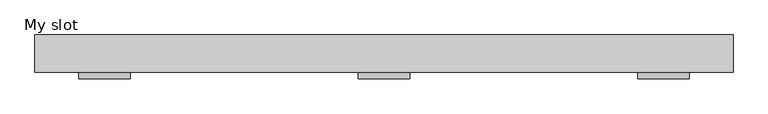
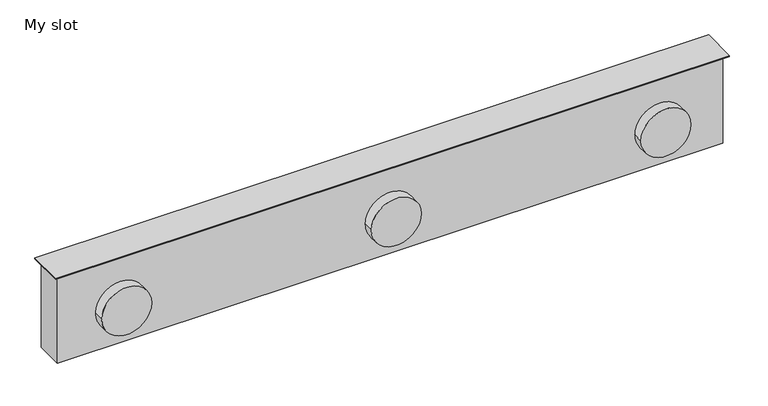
"""IFC4 building model written with IfcOpenShell, lengths in millimetres: air terminal geometry, M_Supply Diffuser with Plenum - Linear Slot - Hosted MODIFIED : My slot."""

from ifc_helpers import new_model, si_unit, point, frame, frame_2d, origin, origin_with_axes, place, context, project, spatial, polyline, circle_curve, trimmed, segment, composite_curve, outline, extrude, source, transform, mapped, element, save


def my_slot_dd8c6a98(model_context):
    return source(origin(), model_context, "Body", "SweptSolid", [
        extrude(outline(composite_curve([segment(trimmed(circle_curve(frame_2d((-159.95, -810.5)), 75.0), [point((-159.95, -885.5))], [point((-159.95, -735.5))], False, "CARTESIAN"), True, "CONTINUOUS"), segment(trimmed(circle_curve(frame_2d((-159.95, -810.5)), 75.0), [point((-159.95, -735.5))], [point((-159.95, -885.5))], False, "CARTESIAN"), True, "CONTINUOUS")], self_intersect=False)), frame((0.0, -73.5, 0.0), z_axis=(0.0, 1.0, 0.0), x_axis=(0.0, 0.0, 1.0)), (0.0, 0.0, 1.0), 32.0),
        extrude(outline(composite_curve([segment(trimmed(circle_curve(frame_2d((-159.95, 810.5)), 75.0), [point((-159.95, 735.5))], [point((-159.95, 885.5))], False, "CARTESIAN"), True, "CONTINUOUS"), segment(trimmed(circle_curve(frame_2d((-159.95, 810.5)), 75.0), [point((-159.95, 885.5))], [point((-159.95, 735.5))], False, "CARTESIAN"), True, "CONTINUOUS")], self_intersect=False)), frame((0.0, -73.5, 0.0), z_axis=(0.0, 1.0, 0.0), x_axis=(0.0, 0.0, 1.0)), (0.0, 0.0, 1.0), 32.0),
        extrude(outline(composite_curve([segment(trimmed(circle_curve(frame_2d((-159.95, 0.0)), 75.0), [point((-159.95, -75.0))], [point((-159.95, 75.0))], False, "CARTESIAN"), True, "CONTINUOUS"), segment(trimmed(circle_curve(frame_2d((-159.95, 0.0)), 75.0), [point((-159.95, 75.0))], [point((-159.95, -75.0))], False, "CARTESIAN"), True, "CONTINUOUS")], self_intersect=False)), frame((0.0, -73.5, 0.0), z_axis=(0.0, 1.0, 0.0), x_axis=(0.0, 0.0, 1.0)), (0.0, 0.0, 1.0), 32.0),
        extrude(outline(polyline([(1012.5, 54.0), (1012.5, -54.0), (-1012.5, -54.0), (-1012.5, 54.0), (1012.5, 54.0)])), origin_with_axes(), (0.0, 0.0, 1.0), 3.175),
        extrude(outline(polyline([(1000.0, 41.5), (1000.0, -41.5), (-1000.0, -41.5), (-1000.0, 41.5), (1000.0, 41.5)])), frame((0.0, 0.0, -279.4), z_axis=(0.0, 0.0, 1.0), x_axis=(1.0, 0.0, 0.0)), (0.0, 0.0, 1.0), 279.4),
    ])


if __name__ == "__main__":
    model = new_model("IFC4")
    model_context = context("Model", 3, world=origin())
    ifc_project = project(units=[si_unit("LENGTHUNIT", "METRE", prefix="MILLI")], contexts=[model_context])
    site = spatial("IfcSite", under=ifc_project)
    building = spatial("IfcBuilding", under=site)
    placement = place(None, origin())
    my_slot_shape = my_slot_dd8c6a98(model_context)
    element("IfcAirTerminal", 1, ObjectType="M_Supply Diffuser with Plenum - Linear Slot - Hosted MODIFIED : My slot", at=placement, inside=building, context=model_context, shape_type="MappedRepresentation", body=[
        mapped(my_slot_shape, transform((0.0, 0.0, 0.0), x_axis=(1.0, 0.0, 0.0), y_axis=(0.0, 1.0, 0.0), z_axis=(0.0, 0.0, 1.0))),
    ])
    save(model, "model.ifc")
